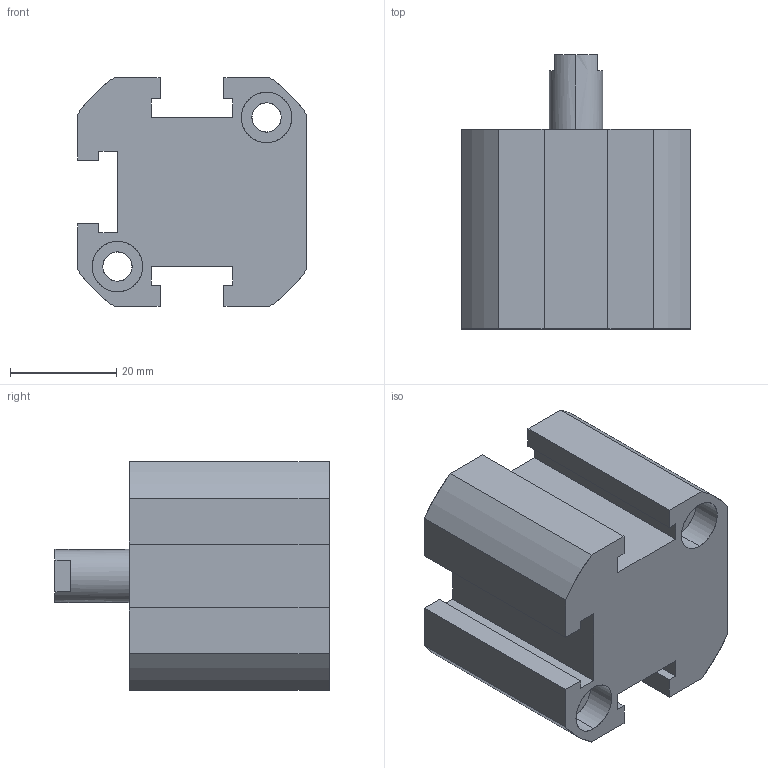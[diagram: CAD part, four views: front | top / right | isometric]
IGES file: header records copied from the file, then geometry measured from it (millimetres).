
Start section: SolidWorks IGES file using analytic representation for surfaces
Global section: file name: C:\Users\Toshiba\Desktop\XG#0-25-10.IGS; native system: SolidWorks 2014; preprocessor: SolidWorks 2014; author: Toshiba; date: 160524.093547; units: millimetre
Bounding box: 43 x 51.5 x 43 mm (x, y, z)
Surface area: 13808.9 mm2 (no closed solid volume)
Topology: 0 solids, 0 shells, 88 faces, 1258 edges, 1254 vertices
Faces by surface type: revolution 44, bspline 44
